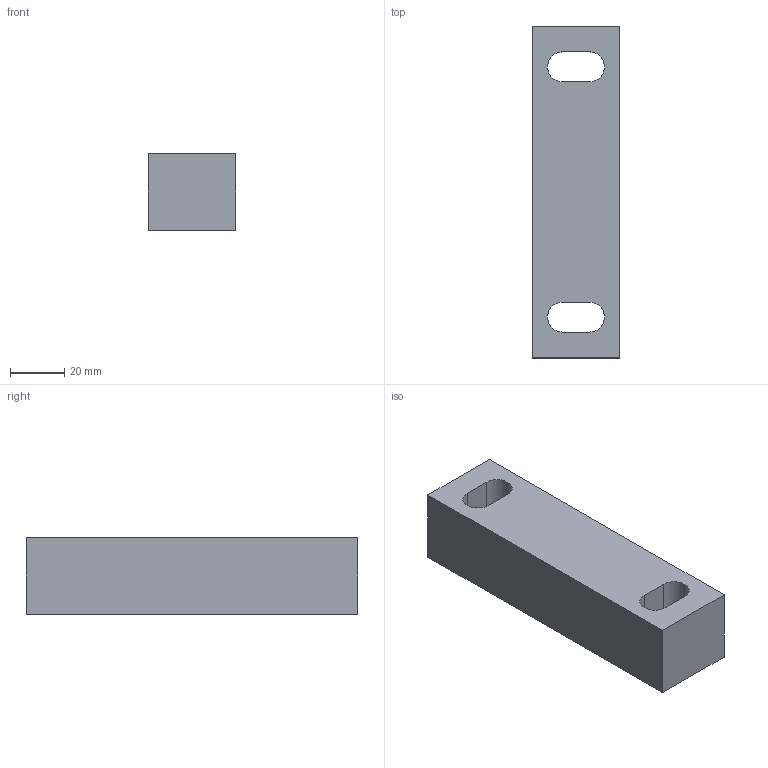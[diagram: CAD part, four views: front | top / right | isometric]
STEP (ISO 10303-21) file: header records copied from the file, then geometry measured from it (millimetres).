
FILE_DESCRIPTION(('STEP AP203'), '1');
FILE_NAME('眐珆1800.01.01.06.003 逄闉', '', ('UNSPECIFIED'), ('UNSPECIFIED'), 'C3D Converter', 'C3D Toolkit', '');
FILE_SCHEMA(('CONFIG_CONTROL_DESIGN'));
Length unit declared in the file: millimetre
Products named in the file (1): ТППФ1800.01.01.06.003
Bounding box: 32 x 122 x 28 mm (x, y, z)
Volume: 97830.1 mm3; surface area: 18667.1 mm2
Topology: 1 solids, 1 shells, 14 faces, 36 edges, 24 vertices
Faces by surface type: plane 10, cylinder 4
Entity records: 588 total; most frequent: CARTESIAN_POINT 75, DIRECTION 74, ORIENTED_EDGE 72, EDGE_CURVE 36, LINE 28, VECTOR 28, VERTEX_POINT 24, AXIS2_PLACEMENT_3D 23
